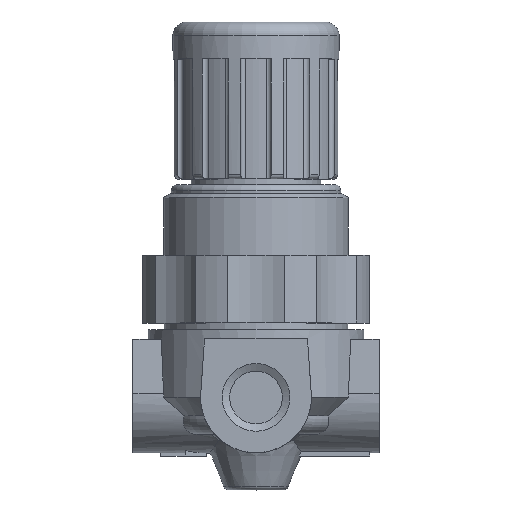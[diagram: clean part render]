
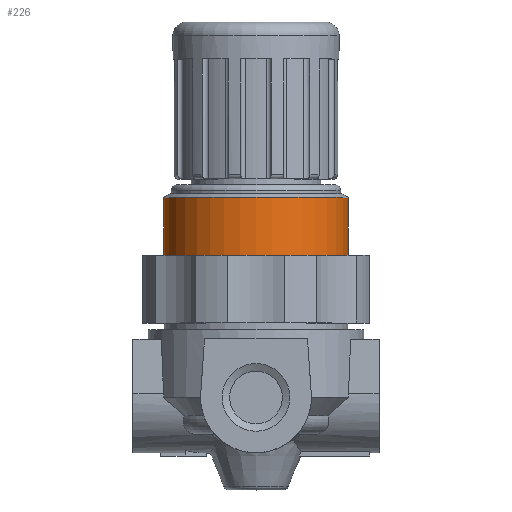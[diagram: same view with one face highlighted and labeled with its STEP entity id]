
A CAD part, top view. The second image highlights one B-rep face of the part: STEP entity #226.
In plain terms, the highlighted cylindrical face has radius 15 mm (diameter 30 mm), a full revolution.
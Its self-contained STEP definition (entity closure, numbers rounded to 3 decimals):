
#226 = ADVANCED_FACE( '', ( #498, #499 ), #500, .T. );
#498 = FACE_OUTER_BOUND( '', #839, .T. );
#499 = FACE_OUTER_BOUND( '', #840, .T. );
#500 = CYLINDRICAL_SURFACE( '', #841, 15. );
#839 = EDGE_LOOP( '', ( #1781 ) );
#840 = EDGE_LOOP( '', ( #1782 ) );
#841 = AXIS2_PLACEMENT_3D( '', #1783, #1784, #1785 );
#1781 = ORIENTED_EDGE( '', *, *, #2520, .F. );
#1782 = ORIENTED_EDGE( '', *, *, #2482, .T. );
#1783 = CARTESIAN_POINT( '', ( 0., -33.1, 0. ) );
#1784 = DIRECTION( '', ( 0., 1., 0. ) );
#1785 = DIRECTION( '', ( 0., 0., -1. ) );
#2482 = EDGE_CURVE( '', #3084, #3084, #3085, .F. );
#2520 = EDGE_CURVE( '', #3143, #3143, #3144, .T. );
#3084 = VERTEX_POINT( '', #4393 );
#3085 = CIRCLE( '', #4394, 15. );
#3143 = VERTEX_POINT( '', #4469 );
#3144 = CIRCLE( '', #4470, 15. );
#4393 = CARTESIAN_POINT( '', ( 0., -23.1, 15. ) );
#4394 = AXIS2_PLACEMENT_3D( '', #5049, #5050, #5051 );
#4469 = CARTESIAN_POINT( '', ( 0., -32.5, -15. ) );
#4470 = AXIS2_PLACEMENT_3D( '', #5129, #5130, #5131 );
#5049 = CARTESIAN_POINT( '', ( 0., -23.1, 0. ) );
#5050 = DIRECTION( '', ( 0., 1., 0. ) );
#5051 = DIRECTION( '', ( 0., 0., 1. ) );
#5129 = CARTESIAN_POINT( '', ( 0., -32.5, 0. ) );
#5130 = DIRECTION( '', ( 0., -1., 0. ) );
#5131 = DIRECTION( '', ( 0., 0., -1. ) );
